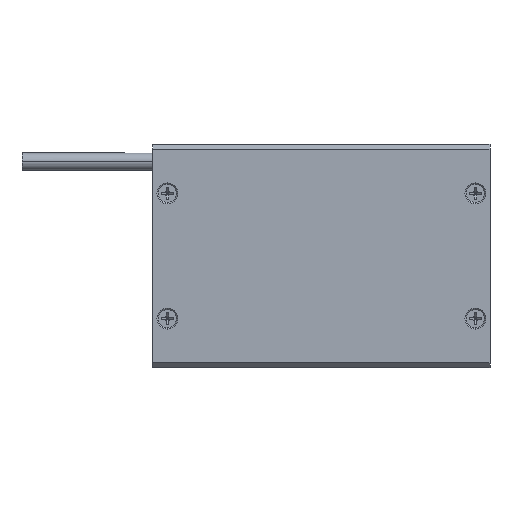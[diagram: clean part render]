
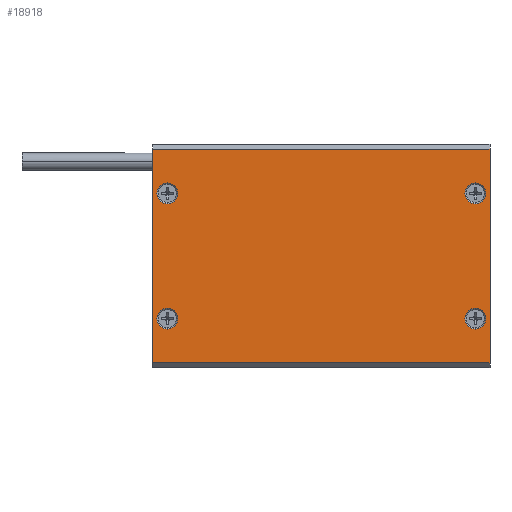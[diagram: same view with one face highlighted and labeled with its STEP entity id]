
A CAD part, front view. The second image highlights one B-rep face of the part: STEP entity #18918.
In plain terms, the highlighted planar face has unit normal (0, -1, 0).
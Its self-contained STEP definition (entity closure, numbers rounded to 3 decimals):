
#1345=DIRECTION('',(0.,0.,-1.));
#1346=VECTOR('',#1345,43.65);
#1347=CARTESIAN_POINT('',(-78.574,5.1,-1.2));
#1348=LINE('',#1347,#1346);
#4936=CARTESIAN_POINT('',(-12.574,5.1,-10.2));
#4937=DIRECTION('',(0.,1.,0.));
#4938=DIRECTION('',(0.,0.,1.));
#4939=AXIS2_PLACEMENT_3D('',#4936,#4937,#4938);
#4941=CARTESIAN_POINT('',(-12.574,5.1,-10.2));
#4942=DIRECTION('',(0.,1.,0.));
#4943=DIRECTION('',(0.,0.,-1.));
#4944=AXIS2_PLACEMENT_3D('',#4941,#4942,#4943);
#4946=CARTESIAN_POINT('',(-12.574,5.1,-35.85));
#4947=DIRECTION('',(0.,1.,0.));
#4948=DIRECTION('',(0.,0.,-1.));
#4949=AXIS2_PLACEMENT_3D('',#4946,#4947,#4948);
#4951=CARTESIAN_POINT('',(-12.574,5.1,-35.85));
#4952=DIRECTION('',(0.,1.,0.));
#4953=DIRECTION('',(0.,0.,1.));
#4954=AXIS2_PLACEMENT_3D('',#4951,#4952,#4953);
#4956=CARTESIAN_POINT('',(-75.574,5.1,-10.2));
#4957=DIRECTION('',(0.,1.,0.));
#4958=DIRECTION('',(0.,0.,1.));
#4959=AXIS2_PLACEMENT_3D('',#4956,#4957,#4958);
#4961=CARTESIAN_POINT('',(-75.574,5.1,-10.2));
#4962=DIRECTION('',(0.,1.,0.));
#4963=DIRECTION('',(0.,0.,-1.));
#4964=AXIS2_PLACEMENT_3D('',#4961,#4962,#4963);
#4966=CARTESIAN_POINT('',(-75.574,5.1,-35.85));
#4967=DIRECTION('',(0.,1.,0.));
#4968=DIRECTION('',(0.,0.,-1.));
#4969=AXIS2_PLACEMENT_3D('',#4966,#4967,#4968);
#4971=CARTESIAN_POINT('',(-75.574,5.1,-35.85));
#4972=DIRECTION('',(0.,1.,0.));
#4973=DIRECTION('',(0.,0.,1.));
#4974=AXIS2_PLACEMENT_3D('',#4971,#4972,#4973);
#4976=DIRECTION('',(-1.,0.,0.));
#4977=VECTOR('',#4976,69.);
#4978=CARTESIAN_POINT('',(-9.574,5.1,-1.2));
#4979=LINE('',#4978,#4977);
#4980=DIRECTION('',(0.,0.,-1.));
#4981=VECTOR('',#4980,43.65);
#4982=CARTESIAN_POINT('',(-9.574,5.1,-1.2));
#4983=LINE('',#4982,#4981);
#4984=DIRECTION('',(-1.,0.,0.));
#4985=VECTOR('',#4984,69.);
#4986=CARTESIAN_POINT('',(-9.574,5.1,-44.85));
#4987=LINE('',#4986,#4985);
#9707=CARTESIAN_POINT('',(-12.574,5.1,-8.073));
#9708=CARTESIAN_POINT('',(-12.574,5.1,-12.328));
#9709=VERTEX_POINT('',#9707);
#9710=VERTEX_POINT('',#9708);
#9727=CARTESIAN_POINT('',(-12.574,5.1,-33.722));
#9728=CARTESIAN_POINT('',(-12.574,5.1,-37.978));
#9729=VERTEX_POINT('',#9727);
#9730=VERTEX_POINT('',#9728);
#9731=CARTESIAN_POINT('',(-9.574,5.1,-44.85));
#9732=CARTESIAN_POINT('',(-78.574,5.1,-44.85));
#9733=VERTEX_POINT('',#9731);
#9734=VERTEX_POINT('',#9732);
#9785=CARTESIAN_POINT('',(-75.574,5.1,-8.073));
#9786=CARTESIAN_POINT('',(-75.574,5.1,-12.328));
#9787=VERTEX_POINT('',#9785);
#9788=VERTEX_POINT('',#9786);
#9789=CARTESIAN_POINT('',(-75.574,5.1,-33.722));
#9790=CARTESIAN_POINT('',(-75.574,5.1,-37.978));
#9791=VERTEX_POINT('',#9789);
#9792=VERTEX_POINT('',#9790);
#10294=CARTESIAN_POINT('',(-9.574,5.1,-1.2));
#10296=VERTEX_POINT('',#10294);
#10437=CARTESIAN_POINT('',(-78.574,5.1,-1.2));
#10439=VERTEX_POINT('',#10437);
#18882=CARTESIAN_POINT('',(-80.574,5.1,-56.7));
#18883=DIRECTION('',(0.,-1.,0.));
#18884=DIRECTION('',(1.,0.,0.));
#18885=AXIS2_PLACEMENT_3D('',#18882,#18883,#18884);
#18886=PLANE('',#18885);
#18887=ORIENTED_EDGE('',*,*,#13834,.F.);
#18889=ORIENTED_EDGE('',*,*,#18888,.F.);
#18890=ORIENTED_EDGE('',*,*,#16093,.T.);
#18891=ORIENTED_EDGE('',*,*,#18874,.T.);
#18892=EDGE_LOOP('',(#18887,#18889,#18890,#18891));
#18893=FACE_OUTER_BOUND('',#18892,.F.);
#18895=ORIENTED_EDGE('',*,*,#18894,.F.);
#18897=ORIENTED_EDGE('',*,*,#18896,.F.);
#18898=EDGE_LOOP('',(#18895,#18897));
#18899=FACE_BOUND('',#18898,.F.);
#18901=ORIENTED_EDGE('',*,*,#18900,.F.);
#18903=ORIENTED_EDGE('',*,*,#18902,.F.);
#18904=EDGE_LOOP('',(#18901,#18903));
#18905=FACE_BOUND('',#18904,.F.);
#18907=ORIENTED_EDGE('',*,*,#18906,.F.);
#18909=ORIENTED_EDGE('',*,*,#18908,.F.);
#18910=EDGE_LOOP('',(#18907,#18909));
#18911=FACE_BOUND('',#18910,.F.);
#18913=ORIENTED_EDGE('',*,*,#18912,.F.);
#18915=ORIENTED_EDGE('',*,*,#18914,.F.);
#18916=EDGE_LOOP('',(#18913,#18915));
#18917=FACE_BOUND('',#18916,.F.);
#18918=ADVANCED_FACE('',(#18893,#18899,#18905,#18911,#18917),#18886,.T.);
#4940=CIRCLE('',#4939,2.128);
#4945=CIRCLE('',#4944,2.128);
#4950=CIRCLE('',#4949,2.128);
#4955=CIRCLE('',#4954,2.128);
#4960=CIRCLE('',#4959,2.128);
#4965=CIRCLE('',#4964,2.128);
#4970=CIRCLE('',#4969,2.128);
#4975=CIRCLE('',#4974,2.128);
#13834=EDGE_CURVE('',#10439,#9734,#1348,.T.);
#16093=EDGE_CURVE('',#10296,#9733,#4983,.T.);
#18874=EDGE_CURVE('',#9733,#9734,#4987,.T.);
#18888=EDGE_CURVE('',#10296,#10439,#4979,.T.);
#18894=EDGE_CURVE('',#9730,#9729,#4950,.T.);
#18896=EDGE_CURVE('',#9729,#9730,#4955,.T.);
#18900=EDGE_CURVE('',#9787,#9788,#4960,.T.);
#18902=EDGE_CURVE('',#9788,#9787,#4965,.T.);
#18906=EDGE_CURVE('',#9792,#9791,#4970,.T.);
#18908=EDGE_CURVE('',#9791,#9792,#4975,.T.);
#18912=EDGE_CURVE('',#9709,#9710,#4940,.T.);
#18914=EDGE_CURVE('',#9710,#9709,#4945,.T.);
